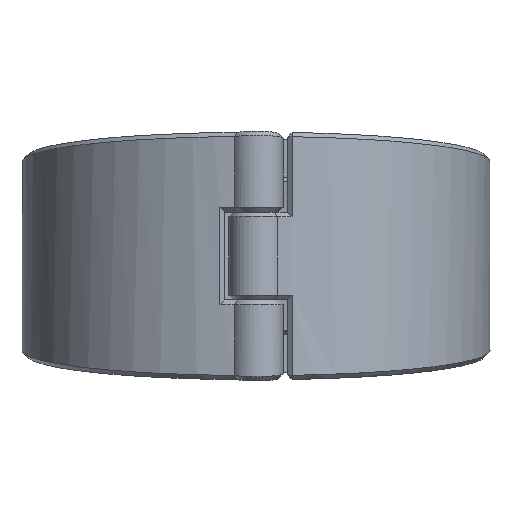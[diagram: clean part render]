
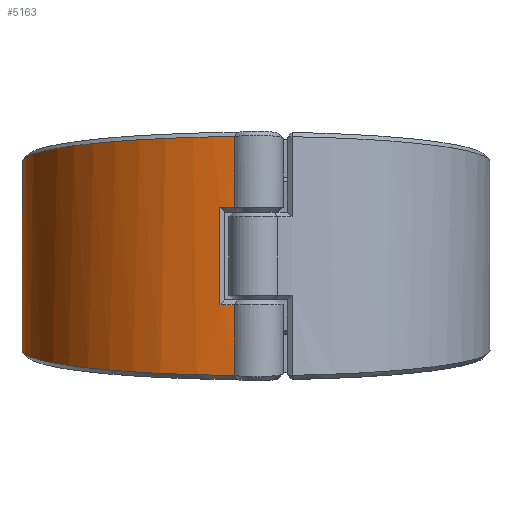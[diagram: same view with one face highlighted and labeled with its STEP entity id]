
A CAD part, front view. The second image highlights one B-rep face of the part: STEP entity #5163.
In plain terms, the highlighted cylindrical face has radius 99 mm (diameter 198 mm), a partial arc.
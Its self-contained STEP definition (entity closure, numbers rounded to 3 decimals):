
#171=CYLINDRICAL_SURFACE('',#5540,99.);
#388=FACE_OUTER_BOUND('',#730,.T.);
#730=EDGE_LOOP('',(#3521,#3522,#3523,#3524,#3525,#3526,#3527,#3528,#3529,
#3530,#3531,#3532));
#1089=B_SPLINE_CURVE_WITH_KNOTS('',3,(#7728,#7729,#7730,#7731),
 .UNSPECIFIED.,.F.,.F.,(4,4),(-0.001,0.),.UNSPECIFIED.);
#1090=B_SPLINE_CURVE_WITH_KNOTS('',3,(#7733,#7734,#7735,#7736),
 .UNSPECIFIED.,.F.,.F.,(4,4),(-3.05,-3.05),
 .UNSPECIFIED.);
#1091=B_SPLINE_CURVE_WITH_KNOTS('',3,(#7738,#7739,#7740,#7741,#7742,#7743,
#7744,#7745,#7746,#7747),.UNSPECIFIED.,.F.,.F.,(4,1,1,1,1,1,1,4),(0.317,
0.649,1.051,1.453,1.855,2.256,
2.658,3.05),.UNSPECIFIED.);
#1092=B_SPLINE_CURVE_WITH_KNOTS('',3,(#7751,#7752,#7753,#7754,#7755,#7756,
#7757,#7758,#7759,#7760),.UNSPECIFIED.,.F.,.F.,(4,1,1,1,1,1,1,4),(-3.05,
-2.658,-2.256,-1.855,-1.453,
-1.051,-0.649,-0.317),.UNSPECIFIED.);
#1093=B_SPLINE_CURVE_WITH_KNOTS('',3,(#7762,#7763,#7764,#7765),
 .UNSPECIFIED.,.F.,.F.,(4,4),(3.05,3.05),
 .UNSPECIFIED.);
#1094=B_SPLINE_CURVE_WITH_KNOTS('',3,(#7767,#7768,#7769,#7770),
 .UNSPECIFIED.,.F.,.F.,(4,4),(-0.362,-0.361),
 .UNSPECIFIED.);
#1317=LINE('',#7662,#1555);
#1323=LINE('',#7726,#1561);
#1324=LINE('',#7749,#1562);
#1325=LINE('',#7771,#1563);
#1555=VECTOR('',#6155,10.);
#1561=VECTOR('',#6201,10.);
#1562=VECTOR('',#6202,10.);
#1563=VECTOR('',#6203,10.);
#1798=CIRCLE('',#5530,99.);
#1801=CIRCLE('',#5535,99.);
#2137=VERTEX_POINT('',#7656);
#2138=VERTEX_POINT('',#7661);
#2144=VERTEX_POINT('',#7682);
#2147=VERTEX_POINT('',#7703);
#2151=VERTEX_POINT('',#7725);
#2152=VERTEX_POINT('',#7727);
#2153=VERTEX_POINT('',#7732);
#2154=VERTEX_POINT('',#7737);
#2155=VERTEX_POINT('',#7748);
#2156=VERTEX_POINT('',#7750);
#2157=VERTEX_POINT('',#7761);
#2158=VERTEX_POINT('',#7766);
#2646=EDGE_CURVE('',#2137,#2138,#1317,.T.);
#2659=EDGE_CURVE('',#2144,#2137,#1798,.T.);
#2664=EDGE_CURVE('',#2138,#2147,#1801,.T.);
#2670=EDGE_CURVE('',#2151,#2144,#1323,.T.);
#2671=EDGE_CURVE('',#2152,#2151,#1089,.T.);
#2672=EDGE_CURVE('',#2152,#2153,#1090,.T.);
#2673=EDGE_CURVE('',#2154,#2153,#1091,.T.);
#2674=EDGE_CURVE('',#2155,#2154,#1324,.T.);
#2675=EDGE_CURVE('',#2156,#2155,#1092,.T.);
#2676=EDGE_CURVE('',#2156,#2157,#1093,.T.);
#2677=EDGE_CURVE('',#2158,#2157,#1094,.T.);
#2678=EDGE_CURVE('',#2147,#2158,#1325,.T.);
#3521=ORIENTED_EDGE('',*,*,#2664,.F.);
#3522=ORIENTED_EDGE('',*,*,#2646,.F.);
#3523=ORIENTED_EDGE('',*,*,#2659,.F.);
#3524=ORIENTED_EDGE('',*,*,#2670,.F.);
#3525=ORIENTED_EDGE('',*,*,#2671,.F.);
#3526=ORIENTED_EDGE('',*,*,#2672,.T.);
#3527=ORIENTED_EDGE('',*,*,#2673,.F.);
#3528=ORIENTED_EDGE('',*,*,#2674,.F.);
#3529=ORIENTED_EDGE('',*,*,#2675,.F.);
#3530=ORIENTED_EDGE('',*,*,#2676,.T.);
#3531=ORIENTED_EDGE('',*,*,#2677,.F.);
#3532=ORIENTED_EDGE('',*,*,#2678,.F.);
#5163=ADVANCED_FACE('',(#388),#171,.T.);
#5530=AXIS2_PLACEMENT_3D('',#7698,#6177,#6178);
#5535=AXIS2_PLACEMENT_3D('',#7712,#6187,#6188);
#5540=AXIS2_PLACEMENT_3D('',#7724,#6199,#6200);
#6155=DIRECTION('',(0.,0.,-1.));
#6177=DIRECTION('center_axis',(0.,0.,-1.));
#6178=DIRECTION('ref_axis',(0.312,-0.95,0.));
#6187=DIRECTION('center_axis',(0.,0.,1.));
#6188=DIRECTION('ref_axis',(0.312,-0.95,0.));
#6199=DIRECTION('center_axis',(0.,0.,1.));
#6200=DIRECTION('ref_axis',(-0.312,0.95,0.));
#6201=DIRECTION('',(0.,0.,-1.));
#6202=DIRECTION('',(0.,0.,1.));
#6203=DIRECTION('',(0.,0.,-1.));
#7656=CARTESIAN_POINT('',(-15.279,-97.814,20.55));
#7661=CARTESIAN_POINT('',(-15.279,-97.814,-20.55));
#7662=CARTESIAN_POINT('',(-15.279,-97.814,0.));
#7682=CARTESIAN_POINT('',(-9.014,-98.589,20.55));
#7698=CARTESIAN_POINT('Origin',(0.,0.,20.55));
#7703=CARTESIAN_POINT('',(-9.014,-98.589,-20.55));
#7712=CARTESIAN_POINT('Origin',(0.,0.,-20.55));
#7724=CARTESIAN_POINT('Origin',(0.,0.,0.));
#7725=CARTESIAN_POINT('',(-9.014,-98.589,50.522));
#7726=CARTESIAN_POINT('',(-9.014,-98.589,0.));
#7727=CARTESIAN_POINT('',(-9.005,-98.59,50.53));
#7728=CARTESIAN_POINT('Ctrl Pts',(-9.005,-98.59,50.53));
#7729=CARTESIAN_POINT('Ctrl Pts',(-9.008,-98.589,50.527));
#7730=CARTESIAN_POINT('Ctrl Pts',(-9.011,-98.589,50.525));
#7731=CARTESIAN_POINT('Ctrl Pts',(-9.014,-98.589,50.522));
#7732=CARTESIAN_POINT('',(-9.014,-98.589,50.53));
#7733=CARTESIAN_POINT('Ctrl Pts',(-9.004,-98.59,50.53));
#7734=CARTESIAN_POINT('Ctrl Pts',(-9.008,-98.589,50.53));
#7735=CARTESIAN_POINT('Ctrl Pts',(-9.011,-98.589,50.53));
#7736=CARTESIAN_POINT('Ctrl Pts',(-9.014,-98.589,50.53));
#7737=CARTESIAN_POINT('',(-30.913,94.05,29.799));
#7738=CARTESIAN_POINT('Ctrl Pts',(-30.912,94.048,29.799));
#7739=CARTESIAN_POINT('Ctrl Pts',(-41.358,90.609,30.168));
#7740=CARTESIAN_POINT('Ctrl Pts',(-63.153,79.165,31.397));
#7741=CARTESIAN_POINT('Ctrl Pts',(-88.388,50.334,34.495));
#7742=CARTESIAN_POINT('Ctrl Pts',(-101.019,11.739,38.645));
#7743=CARTESIAN_POINT('Ctrl Pts',(-97.575,-28.689,42.997));
#7744=CARTESIAN_POINT('Ctrl Pts',(-78.604,-64.516,46.856));
#7745=CARTESIAN_POINT('Ctrl Pts',(-47.435,-89.882,49.591));
#7746=CARTESIAN_POINT('Ctrl Pts',(-21.873,-97.412,50.403));
#7747=CARTESIAN_POINT('Ctrl Pts',(-9.014,-98.589,50.53));
#7748=CARTESIAN_POINT('',(-30.913,94.05,-29.799));
#7749=CARTESIAN_POINT('',(-30.913,94.05,0.));
#7750=CARTESIAN_POINT('',(-9.014,-98.589,-50.53));
#7751=CARTESIAN_POINT('Ctrl Pts',(-9.014,-98.589,-50.53));
#7752=CARTESIAN_POINT('Ctrl Pts',(-21.873,-97.411,-50.403));
#7753=CARTESIAN_POINT('Ctrl Pts',(-47.43,-89.878,-49.59));
#7754=CARTESIAN_POINT('Ctrl Pts',(-78.613,-64.522,-46.857));
#7755=CARTESIAN_POINT('Ctrl Pts',(-97.565,-28.686,-42.996));
#7756=CARTESIAN_POINT('Ctrl Pts',(-101.029,11.739,-38.645));
#7757=CARTESIAN_POINT('Ctrl Pts',(-88.382,50.333,-34.495));
#7758=CARTESIAN_POINT('Ctrl Pts',(-63.154,79.164,-31.397));
#7759=CARTESIAN_POINT('Ctrl Pts',(-41.358,90.608,-30.168));
#7760=CARTESIAN_POINT('Ctrl Pts',(-30.912,94.048,-29.799));
#7761=CARTESIAN_POINT('',(-9.005,-98.59,-50.53));
#7762=CARTESIAN_POINT('Ctrl Pts',(-9.014,-98.589,-50.53));
#7763=CARTESIAN_POINT('Ctrl Pts',(-9.011,-98.589,-50.53));
#7764=CARTESIAN_POINT('Ctrl Pts',(-9.008,-98.589,-50.53));
#7765=CARTESIAN_POINT('Ctrl Pts',(-9.004,-98.59,-50.53));
#7766=CARTESIAN_POINT('',(-9.014,-98.589,-50.522));
#7767=CARTESIAN_POINT('Ctrl Pts',(-9.014,-98.588,-50.522));
#7768=CARTESIAN_POINT('Ctrl Pts',(-9.011,-98.589,-50.525));
#7769=CARTESIAN_POINT('Ctrl Pts',(-9.007,-98.589,-50.527));
#7770=CARTESIAN_POINT('Ctrl Pts',(-9.004,-98.589,-50.53));
#7771=CARTESIAN_POINT('',(-9.014,-98.589,0.));
